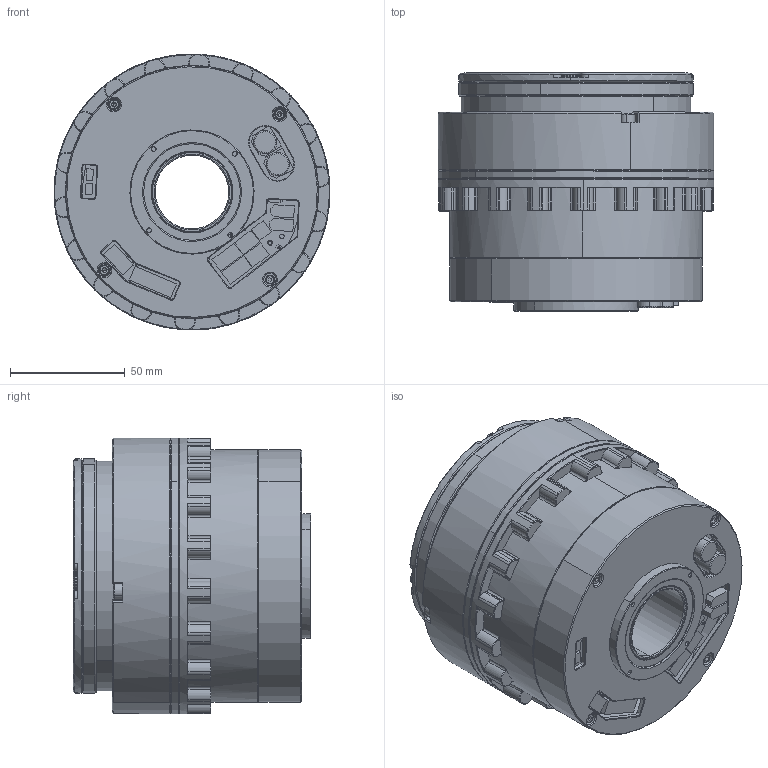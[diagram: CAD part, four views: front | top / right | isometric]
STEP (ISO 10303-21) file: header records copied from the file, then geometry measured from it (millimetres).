
FILE_DESCRIPTION (( 'STEP AP203' ), '1' );
FILE_NAME ('CRA-RI100-120-PRO-XX-2E-EC.STEP', '2024-09-04T09:06:42', ( '' ), ( '' ), 'SwSTEP 2.0', 'SolidWorks 2021', '' );
FILE_SCHEMA (( 'CONFIG_CONTROL_DESIGN' ));
Length unit declared in the file: millimetre
Products named in the file (1): CRA-RI100-120-PRO-XX-2E-EC
Bounding box: 120 x 103.5 x 119.97 mm (x, y, z)
Surface area: 121585.8 mm2 (no closed solid volume)
Topology: 0 solids, 126 shells, 1471 faces, 5518 edges, 4093 vertices
Faces by surface type: plane 552, cylinder 426, cone 420, torus 73
Entity records: 64497 total; most frequent: CARTESIAN_POINT 17390, DIRECTION 10212, ORIENTED_EDGE 8455, EDGE_CURVE 5508, VERTEX_POINT 4093, AXIS2_PLACEMENT_3D 3711, LINE 2790, VECTOR 2790
